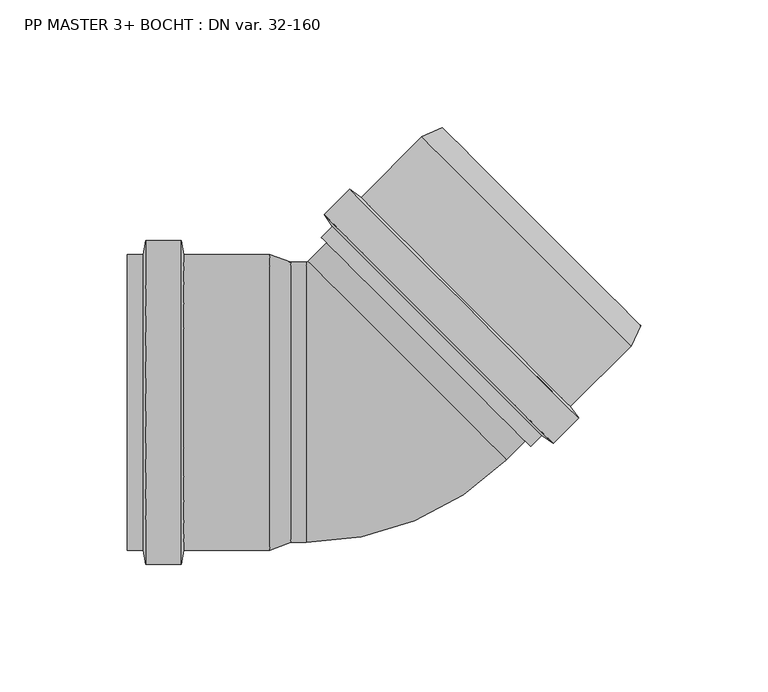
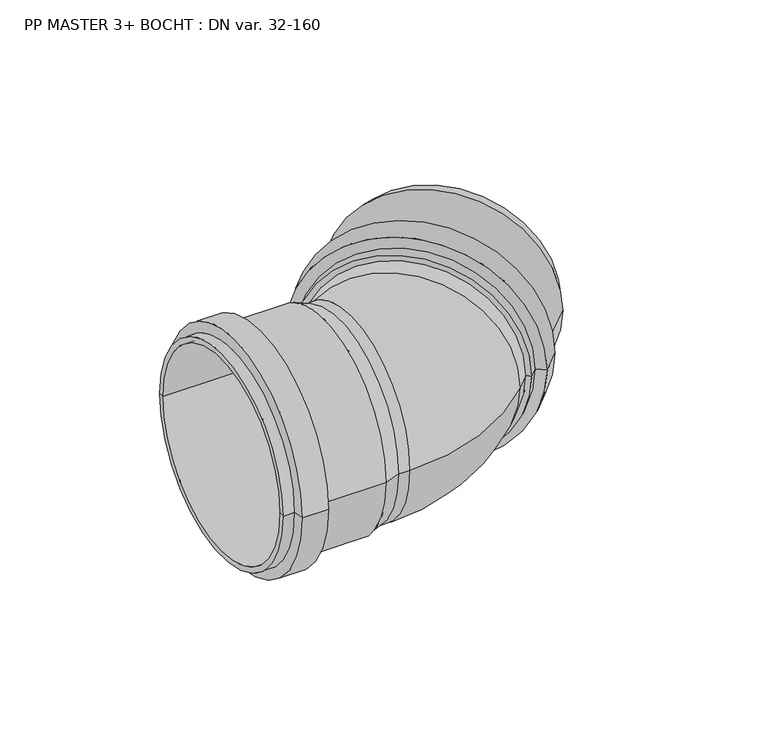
"""IFC4 building model written with IfcOpenShell, lengths in millimetres: pipe fitting geometry, PP MASTER 3+ BOCHT : DN var. 32-160."""

from ifc_helpers import new_model, si_unit, point, frame, origin, place, context, project, spatial, polyline, circle_curve, ellipse_curve, trimmed, source, transform, mapped, element, save
from ifc_brep_helpers import plane_surface, cylinder_surface, revolved_surface, advanced_brep


def pp_master_3_bocht_dn_var_32_160_5654f6d2(model_context):
    return source(origin(), model_context, "Body", "AdvancedBrep", [
        advanced_brep(
        [(-15.117083, 62.6646629, 0.0), (62.6646629, -15.117083, 0.0), (107.9194969, 30.1377509, 0.0), (30.1377509, 107.9194969, 0.0), (104.2125375, 22.1881509, 0.0), (22.1881509, 104.2125375, 0.0), (80.4130431, -1.6113435, 0.0), (-1.6113435, 80.4130431, 0.0), (83.6163794, -6.1861818, 0.0), (-6.1861818, 83.6163794, 0.0), (73.6741729, -16.1283883, 0.0), (-16.1283883, 73.6741729, 0.0), (69.0993346, -12.925052, 0.0), (-12.925052, 69.0993346, 0.0), (64.7859832, -17.2384034, 0.0), (-17.2384034, 64.7859832, 0.0)],
        [
            (0, 1, circle_curve(frame((23.7737899, 23.7737899, 0.0), z_axis=(-0.7071067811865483, -0.7071067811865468, 0.0), x_axis=(0.7071067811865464, -0.7071067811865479, 0.0)), 55.0)),
            (1, 2),
            (2, 3, circle_curve(frame((69.0286239, 69.0286239, 0.0), z_axis=(0.7071067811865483, 0.7071067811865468, 0.0), x_axis=(0.7071067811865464, -0.7071067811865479, 0.0)), 55.0)),
            (3, 0),
            (1, 0, circle_curve(frame((23.7737899, 23.7737899, 0.0), z_axis=(-0.7071067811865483, -0.7071067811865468, 0.0), x_axis=(0.7071067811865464, -0.7071067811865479, 0.0)), 55.0)),
            (3, 2, circle_curve(frame((69.0286239, 69.0286239, 0.0), z_axis=(0.7071067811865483, 0.7071067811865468, 0.0), x_axis=(0.7071067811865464, -0.7071067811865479, 0.0)), 55.0)),
            (2, 4),
            (4, 5, circle_curve(frame((63.2003442, 63.2003442, 0.0), z_axis=(0.7071067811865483, 0.7071067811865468, 0.0), x_axis=(0.7071067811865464, -0.7071067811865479, 0.0)), 58.0)),
            (5, 3),
            (5, 4, circle_curve(frame((63.2003442, 63.2003442, 0.0), z_axis=(0.7071067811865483, 0.7071067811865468, 0.0), x_axis=(0.7071067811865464, -0.7071067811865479, 0.0)), 58.0)),
            (4, 6),
            (6, 7, circle_curve(frame((39.4008498, 39.4008498, 0.0), z_axis=(0.7071067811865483, 0.7071067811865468, 0.0), x_axis=(0.7071067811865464, -0.7071067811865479, 0.0)), 58.0)),
            (7, 5),
            (7, 6, circle_curve(frame((39.4008498, 39.4008498, 0.0), z_axis=(0.7071067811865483, 0.7071067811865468, 0.0), x_axis=(0.7071067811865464, -0.7071067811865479, 0.0)), 58.0)),
            (6, 8),
            (8, 9, circle_curve(frame((38.7150988, 38.7150988, 0.0), z_axis=(0.7071067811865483, 0.7071067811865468, 0.0), x_axis=(0.7071067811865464, -0.7071067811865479, 0.0)), 63.5)),
            (9, 7),
            (9, 8, circle_curve(frame((38.7150988, 38.7150988, 0.0), z_axis=(0.7071067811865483, 0.7071067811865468, 0.0), x_axis=(0.7071067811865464, -0.7071067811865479, 0.0)), 63.5)),
            (8, 10),
            (10, 11, circle_curve(frame((28.7728923, 28.7728923, 0.0), z_axis=(0.7071067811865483, 0.7071067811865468, 0.0), x_axis=(0.7071067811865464, -0.7071067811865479, 0.0)), 63.5)),
            (11, 9),
            (11, 10, circle_curve(frame((28.7728923, 28.7728923, 0.0), z_axis=(0.7071067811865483, 0.7071067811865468, 0.0), x_axis=(0.7071067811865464, -0.7071067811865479, 0.0)), 63.5)),
            (10, 12),
            (12, 13, circle_curve(frame((28.0871413, 28.0871413, 0.0), z_axis=(0.7071067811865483, 0.7071067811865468, 0.0), x_axis=(0.7071067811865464, -0.7071067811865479, 0.0)), 58.0)),
            (13, 11),
            (13, 12, circle_curve(frame((28.0871413, 28.0871413, 0.0), z_axis=(0.7071067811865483, 0.7071067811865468, 0.0), x_axis=(0.7071067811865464, -0.7071067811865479, 0.0)), 58.0)),
            (12, 14),
            (14, 15, circle_curve(frame((23.7737899, 23.7737899, 0.0), z_axis=(0.7071067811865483, 0.7071067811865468, 0.0), x_axis=(0.7071067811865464, -0.7071067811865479, 0.0)), 58.0)),
            (15, 13),
            (15, 14, circle_curve(frame((23.7737899, 23.7737899, 0.0), z_axis=(0.7071067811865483, 0.7071067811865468, 0.0), x_axis=(0.7071067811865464, -0.7071067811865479, 0.0)), 58.0)),
            (14, 1),
            (0, 15),
        ],
        [
            revolved_surface(polyline([(107.91949686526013, 30.137750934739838, 0.0), (62.664662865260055, -15.117083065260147, 0.0)]), (16.7027221, 16.7027221, 0.0), (0.7071067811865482, 0.7071067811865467, 0.0)),
            revolved_surface(polyline([(104.2125375, 22.1881509, 0.0), (107.9194969, 30.1377509, 0.0)]), (16.7027221, 16.7027221, 0.0), (0.7071067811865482, 0.7071067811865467, 0.0)),
            cylinder_surface(frame((16.7027221, 16.7027221, 0.0), z_axis=(0.7071067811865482, 0.7071067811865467, 0.0), x_axis=(0.7071067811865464, -0.7071067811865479, 0.0)), 58.0),
            revolved_surface(polyline([(83.6163794, -6.1861818, 0.0), (80.4130431, -1.6113435, 0.0)]), (16.7027221, 16.7027221, 0.0), (0.7071067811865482, 0.7071067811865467, 0.0)),
            cylinder_surface(frame((16.7027221, 16.7027221, 0.0), z_axis=(0.7071067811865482, 0.7071067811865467, 0.0), x_axis=(0.7071067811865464, -0.7071067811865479, 0.0)), 63.5),
            revolved_surface(polyline([(69.0993346, -12.925052, 0.0), (73.6741729, -16.1283883, 0.0)]), (16.7027221, 16.7027221, 0.0), (0.7071067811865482, 0.7071067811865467, 0.0)),
            plane_surface(frame((23.7737899, 23.7737899, 0.0), z_axis=(-0.7071067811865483, -0.7071067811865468, 0.0), x_axis=(0.7071067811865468, -0.7071067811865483, 0.0))),
        ],
        [
            (0, [[1, 2, 3, 4]]),
            (0, [[5, -4, 6, -2]]),
            (1, [[-3, 7, 8, 9]]),
            (1, [[-6, -9, 10, -7]]),
            (2, [[-8, 11, 12, 13]]),
            (2, [[-10, -13, 14, -11]]),
            (3, [[-12, 15, 16, 17]]),
            (3, [[-14, -17, 18, -15]]),
            (4, [[-16, 19, 20, 21]]),
            (4, [[-18, -21, 22, -19]]),
            (5, [[-20, 23, 24, 25]]),
            (5, [[-22, -25, 26, -23]]),
            (2, [[-24, 27, 28, 29]]),
            (2, [[-26, -29, 30, -27]]),
            (6, [[-28, 31, -1, 32]]),
            (6, [[-30, -32, -5, -31]]),
        ],
    ),
        advanced_brep(
        [(-29.2787839, -55.0, 0.0), (-29.2787839, 55.0, 0.0), (-93.2787839, 55.0, 0.0), (-93.2787839, -55.0, 0.0), (-37.5212161, -58.0, 0.0), (-37.5212161, 58.0, 0.0), (-71.1787839, -58.0, 0.0), (-71.1787839, 58.0, 0.0), (-72.1485823, -63.5, 0.0), (-72.1485823, 63.5, 0.0), (-86.2089855, -63.5, 0.0), (-86.2089855, 63.5, 0.0), (-87.1787839, -58.0, 0.0), (-87.1787839, 58.0, 0.0), (-93.2787839, -58.0, 0.0), (-93.2787839, 58.0, 0.0)],
        [
            (0, 1, circle_curve(frame((-29.2787839, 0.0, 0.0), z_axis=(1.0, 0.0, 0.0), x_axis=(0.0, 1.0, 0.0)), 55.0)),
            (1, 2),
            (2, 3, circle_curve(frame((-93.2787839, 0.0, 0.0), z_axis=(-1.0, 0.0, 0.0), x_axis=(0.0, 1.0, 0.0)), 55.0)),
            (3, 0),
            (1, 0, circle_curve(frame((-29.2787839, 0.0, 0.0), z_axis=(1.0, 0.0, 0.0), x_axis=(0.0, 1.0, 0.0)), 55.0)),
            (3, 2, circle_curve(frame((-93.2787839, 0.0, 0.0), z_axis=(-1.0, 0.0, 0.0), x_axis=(0.0, 1.0, 0.0)), 55.0)),
            (4, 5, circle_curve(frame((-37.5212161, 0.0, 0.0), z_axis=(1.0, 0.0, 0.0), x_axis=(0.0, 1.0, 0.0)), 58.0)),
            (5, 1),
            (0, 4),
            (5, 4, circle_curve(frame((-37.5212161, 0.0, 0.0), z_axis=(1.0, 0.0, 0.0), x_axis=(0.0, 1.0, 0.0)), 58.0)),
            (6, 7, circle_curve(frame((-71.1787839, 0.0, 0.0), z_axis=(1.0, 0.0, 0.0), x_axis=(0.0, 1.0, 0.0)), 58.0)),
            (7, 5),
            (4, 6),
            (7, 6, circle_curve(frame((-71.1787839, 0.0, 0.0), z_axis=(1.0, 0.0, 0.0), x_axis=(0.0, 1.0, 0.0)), 58.0)),
            (8, 9, circle_curve(frame((-72.1485823, 0.0, 0.0), z_axis=(1.0, 0.0, 0.0), x_axis=(0.0, 1.0, 0.0)), 63.5)),
            (9, 7),
            (6, 8),
            (9, 8, circle_curve(frame((-72.1485823, 0.0, 0.0), z_axis=(1.0, 0.0, 0.0), x_axis=(0.0, 1.0, 0.0)), 63.5)),
            (10, 11, circle_curve(frame((-86.2089855, 0.0, 0.0), z_axis=(1.0, 0.0, 0.0), x_axis=(0.0, 1.0, 0.0)), 63.5)),
            (11, 9),
            (8, 10),
            (11, 10, circle_curve(frame((-86.2089855, 0.0, 0.0), z_axis=(1.0, 0.0, 0.0), x_axis=(0.0, 1.0, 0.0)), 63.5)),
            (12, 13, circle_curve(frame((-87.1787839, 0.0, 0.0), z_axis=(1.0, 0.0, 0.0), x_axis=(0.0, 1.0, 0.0)), 58.0)),
            (13, 11),
            (10, 12),
            (13, 12, circle_curve(frame((-87.1787839, 0.0, 0.0), z_axis=(1.0, 0.0, 0.0), x_axis=(0.0, 1.0, 0.0)), 58.0)),
            (14, 15, circle_curve(frame((-93.2787839, 0.0, 0.0), z_axis=(1.0, 0.0, 0.0), x_axis=(0.0, 1.0, 0.0)), 58.0)),
            (15, 13),
            (12, 14),
            (15, 14, circle_curve(frame((-93.2787839, 0.0, 0.0), z_axis=(1.0, 0.0, 0.0), x_axis=(0.0, 1.0, 0.0)), 58.0)),
            (2, 15),
            (14, 3),
        ],
        [
            revolved_surface(polyline([(-93.2787839, 55.0, 0.0), (-29.278783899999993, 55.0, 0.0)]), (-103.2787839, 0.0, 0.0), (-1.0, 0.0, 0.0)),
            revolved_surface(polyline([(-29.2787839, 55.0, 0.0), (-37.5212161, 58.0, 0.0)]), (-103.2787839, 0.0, 0.0), (-1.0, 0.0, 0.0)),
            cylinder_surface(frame((-103.2787839, 0.0, 0.0), z_axis=(-1.0, 0.0, 0.0), x_axis=(0.0, 1.0, 0.0)), 58.0),
            revolved_surface(polyline([(-71.1787839, 58.0, 0.0), (-72.1485823, 63.5, 0.0)]), (-103.2787839, 0.0, 0.0), (-1.0, 0.0, 0.0)),
            cylinder_surface(frame((-103.2787839, 0.0, 0.0), z_axis=(-1.0, 0.0, 0.0), x_axis=(0.0, 1.0, 0.0)), 63.5),
            revolved_surface(polyline([(-86.2089855, 63.5, 0.0), (-87.1787839, 58.0, 0.0)]), (-103.2787839, 0.0, 0.0), (-1.0, 0.0, 0.0)),
            plane_surface(frame((-93.2787839, 0.0, 0.0), z_axis=(-1.0, 0.0, 0.0), x_axis=(0.0, 1.0, 0.0))),
        ],
        [
            (0, [[1, 2, 3, 4]]),
            (0, [[5, -4, 6, -2]]),
            (1, [[7, 8, -1, 9]]),
            (1, [[10, -9, -5, -8]]),
            (2, [[11, 12, -7, 13]]),
            (2, [[14, -13, -10, -12]]),
            (3, [[15, 16, -11, 17]]),
            (3, [[18, -17, -14, -16]]),
            (4, [[19, 20, -15, 21]]),
            (4, [[22, -21, -18, -20]]),
            (5, [[23, 24, -19, 25]]),
            (5, [[26, -25, -22, -24]]),
            (2, [[27, 28, -23, 29]]),
            (2, [[30, -29, -26, -28]]),
            (6, [[-3, 31, -27, 32]]),
            (6, [[-6, -32, -30, -31]]),
        ],
    ),
        advanced_brep(
        [(-23.1959595, -55.0, 0.0), (-23.1959595, 55.0, 0.0), (-33.4, 55.0, 0.0), (-33.4, -55.0, 0.0), (55.2928932, -22.4888527, 0.0), (-22.4888527, 55.2928932, 0.0), (105.005357, 27.2236111, 0.0), (27.2236111, 105.005357, 0.0)],
        [
            (0, 1, circle_curve(frame((-23.1959595, 0.0, 0.0), z_axis=(-1.0, 0.0, 0.0), x_axis=(0.0, 1.0, 0.0)), 55.0)),
            (1, 2),
            (2, 3, circle_curve(frame((-33.4, 0.0, 0.0), z_axis=(1.0, 0.0, 0.0), x_axis=(0.0, 1.0, 0.0)), 55.0)),
            (3, 0),
            (1, 0, circle_curve(frame((-23.1959595, 0.0, 0.0), z_axis=(-1.0, 0.0, 0.0), x_axis=(0.0, 1.0, 0.0)), 55.0)),
            (3, 2, circle_curve(frame((-33.4, 0.0, 0.0), z_axis=(1.0, 0.0, 0.0), x_axis=(0.0, 1.0, 0.0)), 55.0)),
            (0, 4, circle_curve(frame((-23.1959595, 56.0, 0.0), z_axis=(0.0, 0.0, 1.0), x_axis=(0.0, -1.0, 0.0)), 111.0)),
            (4, 5, circle_curve(frame((16.4020203, 16.4020203, 0.0), z_axis=(-0.7071067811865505, -0.7071067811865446, 0.0), x_axis=(-0.7071067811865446, 0.7071067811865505, 0.0)), 55.0)),
            (5, 1, circle_curve(frame((-23.1959595, 56.0, 0.0), z_axis=(0.0, 0.0, -1.0), x_axis=(0.0, -1.0, 0.0)), 1.0)),
            (5, 4, circle_curve(frame((16.4020203, 16.4020203, 0.0), z_axis=(-0.7071067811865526, -0.7071067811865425, 0.0), x_axis=(-0.7071067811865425, 0.7071067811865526, 0.0)), 55.0)),
            (6, 7, circle_curve(frame((66.114484, 66.114484, 0.0), z_axis=(0.7071067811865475, 0.7071067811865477, 0.0), x_axis=(-0.7071067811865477, 0.7071067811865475, 0.0)), 55.0)),
            (7, 6, circle_curve(frame((66.114484, 66.114484, 0.0), z_axis=(0.7071067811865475, 0.7071067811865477, 0.0), x_axis=(-0.7071067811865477, 0.7071067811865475, 0.0)), 55.0)),
            (4, 6),
            (7, 5),
        ],
        [
            cylinder_surface(frame((-97.4, 0.0, 0.0), z_axis=(-1.0, 0.0, 0.0), x_axis=(0.0, 1.0, 0.0)), 55.0),
            revolved_surface(trimmed(ellipse_curve(frame((-23.1959595, 0.0, 0.0), z_axis=(-1.0, 0.0, 0.0), x_axis=(0.0, 1.0, 0.0)), 55.0, 55.0), [point((-23.1959595, -55.0, 0.0))], [point((-23.1959595, 55.0, 0.0))], True, "CARTESIAN"), (-23.1959595, 56.0, 0.0), (0.0, 0.0, 1.0)),
            revolved_surface(trimmed(ellipse_curve(frame((-23.1959595, 0.0, 0.0), z_axis=(-1.0, 0.0, 0.0), x_axis=(0.0, 1.0, 0.0)), 55.0, 55.0), [point((-23.1959595, 55.0, 0.0))], [point((-23.1959595, -55.0, 0.0))], True, "CARTESIAN"), (-23.1959595, 56.0, 0.0), (0.0, 0.0, 1.0)),
            plane_surface(frame((66.114484, 66.114484, 0.0), z_axis=(0.7071067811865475, 0.7071067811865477, 0.0), x_axis=(0.0, 0.0, 1.0))),
            cylinder_surface(frame((16.4020203, 16.4020203, 0.0), z_axis=(-0.7071067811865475, -0.7071067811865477, 0.0), x_axis=(-0.7071067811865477, 0.7071067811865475, 0.0)), 55.0),
            plane_surface(frame((-33.4, 55.65, 0.0), z_axis=(-1.0, 0.0, 0.0), x_axis=(0.0, 0.0, 1.0))),
        ],
        [
            (0, [[1, 2, 3, 4]]),
            (0, [[5, -4, 6, -2]]),
            (1, [[-1, 7, 8, 9]]),
            (2, [[-5, -9, 10, -7]]),
            (3, [[11, 12]]),
            (4, [[-8, 13, -12, 14]]),
            (4, [[-10, -14, -11, -13]]),
            (5, [[-3, -6]]),
        ],
    ),
    ])


if __name__ == "__main__":
    model = new_model("IFC4")
    model_context = context("Model", 3, world=origin())
    ifc_project = project(units=[si_unit("LENGTHUNIT", "METRE", prefix="MILLI")], contexts=[model_context])
    site = spatial("IfcSite", under=ifc_project)
    building = spatial("IfcBuilding", under=site)
    placement = place(None, origin())
    pp_master_3_bocht_dn_var_32_160_shape = pp_master_3_bocht_dn_var_32_160_5654f6d2(model_context)
    element("IfcPipeFitting", 1, ObjectType="PP MASTER 3+ BOCHT : DN var. 32-160", at=placement, inside=building, context=model_context, shape_type="MappedRepresentation", body=[
        mapped(pp_master_3_bocht_dn_var_32_160_shape, transform((0.0, 0.0, 0.0), x_axis=(1.0, 0.0, 0.0), y_axis=(0.0, 1.0, 0.0), z_axis=(0.0, 0.0, 1.0))),
    ])
    save(model, "model.ifc")
